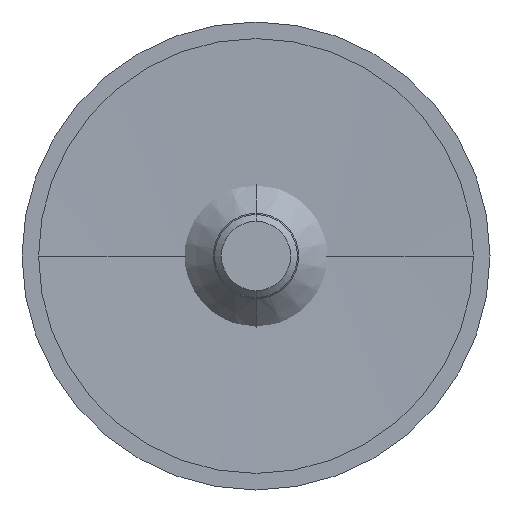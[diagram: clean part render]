
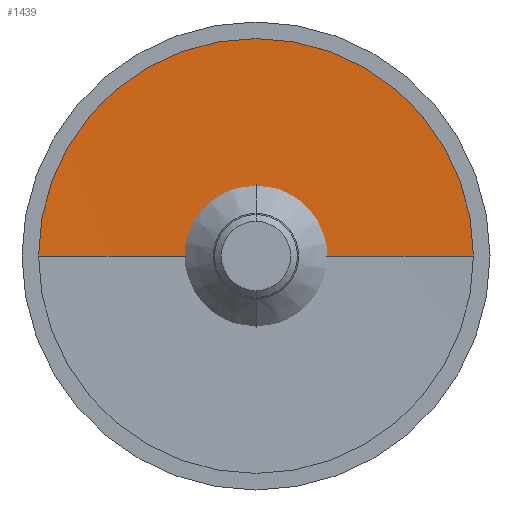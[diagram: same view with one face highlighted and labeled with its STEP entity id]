
A CAD part, front view. The second image highlights one B-rep face of the part: STEP entity #1439.
In plain terms, the highlighted spherical face has radius 689.312 mm.
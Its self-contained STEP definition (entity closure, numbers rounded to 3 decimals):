
#480 = DIRECTION ( 'NONE',  ( 0., 0., 1. ) ) ;
#1439 = ADVANCED_FACE ( 'NONE', ( #6885 ), #2363, .F. ) ;
#1731 = CARTESIAN_POINT ( 'NONE',  ( 0., -688.812, 0. ) ) ;
#1979 = EDGE_LOOP ( 'NONE', ( #2589, #3965, #5435 ) ) ;
#2126 = VERTEX_POINT ( 'NONE', #5753 ) ;
#2240 = CIRCLE ( 'NONE', #5321, 689.312 ) ;
#2363 = SPHERICAL_SURFACE ( 'NONE', #3733, 689.312 ) ;
#2589 = ORIENTED_EDGE ( 'NONE', *, *, #6995, .F. ) ;
#2603 = AXIS2_PLACEMENT_3D ( 'NONE', #4955, #480, #3213 ) ;
#2773 = DIRECTION ( 'NONE',  ( 0., 0., -1. ) ) ;
#2925 = DIRECTION ( 'NONE',  ( 0., 0., -1. ) ) ;
#2927 = CIRCLE ( 'NONE', #3281, 26.25 ) ;
#3213 = DIRECTION ( 'NONE',  ( 1., 0., 0. ) ) ;
#3281 = AXIS2_PLACEMENT_3D ( 'NONE', #4970, #7230, #7303 ) ;
#3733 = AXIS2_PLACEMENT_3D ( 'NONE', #1731, #2925, #5732 ) ;
#3965 = ORIENTED_EDGE ( 'NONE', *, *, #7082, .T. ) ;
#4439 = DIRECTION ( 'NONE',  ( -1., 0., 0. ) ) ;
#4541 = VERTEX_POINT ( 'NONE', #6714 ) ;
#4955 = CARTESIAN_POINT ( 'NONE',  ( 0., -688.812, 0. ) ) ;
#4970 = CARTESIAN_POINT ( 'NONE',  ( 0., 0., 0. ) ) ;
#5036 = EDGE_CURVE ( 'NONE', #2126, #4541, #2927, .T. ) ;
#5321 = AXIS2_PLACEMENT_3D ( 'NONE', #5501, #2773, #4439 ) ;
#5435 = ORIENTED_EDGE ( 'NONE', *, *, #5036, .T. ) ;
#5445 = VERTEX_POINT ( 'NONE', #7294 ) ;
#5501 = CARTESIAN_POINT ( 'NONE',  ( 0., -688.812, 0. ) ) ;
#5732 = DIRECTION ( 'NONE',  ( -1., 0., 0. ) ) ;
#5753 = CARTESIAN_POINT ( 'NONE',  ( 26.25, 0., 0. ) ) ;
#6615 = CIRCLE ( 'NONE', #2603, 689.312 ) ;
#6714 = CARTESIAN_POINT ( 'NONE',  ( -26.25, 0., 0. ) ) ;
#6885 = FACE_OUTER_BOUND ( 'NONE', #1979, .T. ) ;
#6995 = EDGE_CURVE ( 'NONE', #5445, #4541, #6615, .T. ) ;
#7082 = EDGE_CURVE ( 'NONE', #5445, #2126, #2240, .T. ) ;
#7230 = DIRECTION ( 'NONE',  ( 0., -1., 0. ) ) ;
#7294 = CARTESIAN_POINT ( 'NONE',  ( 0., 0.5, 0. ) ) ;
#7303 = DIRECTION ( 'NONE',  ( 0., 0., 1. ) ) ;
